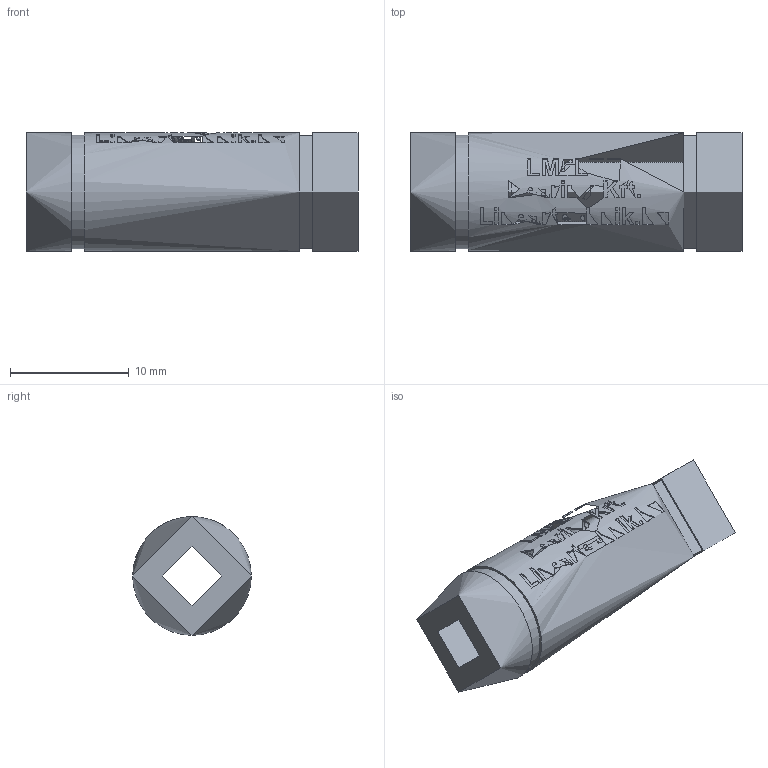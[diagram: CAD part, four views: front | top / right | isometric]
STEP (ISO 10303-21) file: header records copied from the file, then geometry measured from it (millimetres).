
FILE_DESCRIPTION(/* description */ (''),/* implementation_level */ '2;1');
FILE_NAME(/* name */ 'LM5LUU',/* time_stamp */ '2019-05-16T09:39:12+02:00',/* author */ ('VĂ©gh MĂˇtĂ©'),/* organization */ ('Bearing Kft'),/* preprocessor_version */ 'ST-DEVELOPER v16.7',/* originating_system */ 'DEX',/* authorisation */ $);
FILE_SCHEMA (('AUTOMOTIVE_DESIGN {1 0 10303 214 3 1 1}'));
Length unit declared in the file: millimetre
Products named in the file (1): LM5LUU
Bounding box: 28 x 10 x 10 mm (x, y, z)
Topology: 0 solids, 3 shells, 304 faces, 768 edges, 515 vertices
Faces by surface type: plane 160, bspline 94, cylinder 50
Full cylindrical faces by diameter (mm): 5 x1, 9.6 x2, 9.8 x1, 10 x3
Entity records: 15164 total; most frequent: CARTESIAN_POINT 8358, ORIENTED_EDGE 1512, DIRECTION 1133, EDGE_CURVE 756, VERTEX_POINT 509, LINE 421, VECTOR 421, EDGE_LOOP 361
